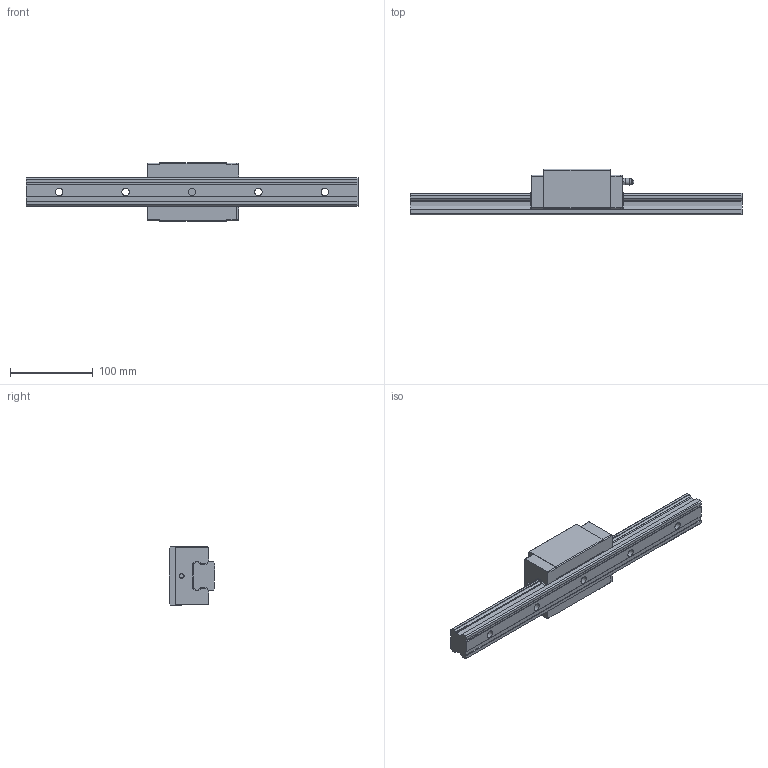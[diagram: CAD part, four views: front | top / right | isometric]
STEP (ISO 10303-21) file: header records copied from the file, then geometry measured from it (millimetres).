
FILE_DESCRIPTION((''),'2;1');
FILE_NAME('D:\製品 (図面)\カタログ用3D\変換ファイル\OZAK_3D-CAD(STEP形式)\Part2.-Linear Guides_ﾘﾆｱｶﾞｲﾄﾞ\07_Eco Guides_ｴｺｶﾞｲﾄﾞ\EGH\EGH35.stp','2010-12-22T11:12:51',('Tsuchiya'),(''),'Autodesk Inventor 10','Autodesk Inventor 10','');
FILE_SCHEMA(('AUTOMOTIVE_DESIGN { 1 0 10303 214 1 1 1 1 }'));
Length unit declared in the file: millimetre
Products named in the file (3): EGH35; EGH351; EGH352
Assembly tree (2 placements, depth 2):
  EGH35
    EGH351
    EGH352
Bounding box: 400 x 55 x 70 mm (x, y, z)
Volume: 581022.8 mm3; surface area: 93666.3 mm2
Topology: 2 solids, 2 shells, 263 faces, 723 edges, 477 vertices
Faces by surface type: plane 145, cylinder 102, cone 12, bspline 2, torus 1, sphere 1
Full cylindrical faces by diameter (mm): 6 x3, 6.8 x4, 7.75 x1, 8 x5, 9 x5, 14 x5
Entity records: 9343 total; most frequent: CARTESIAN_POINT 2764, ORIENTED_EDGE 1352, DIRECTION 1312, EDGE_CURVE 676, VERTEX_POINT 466, AXIS2_PLACEMENT_3D 451, VECTOR 410, LINE 410
